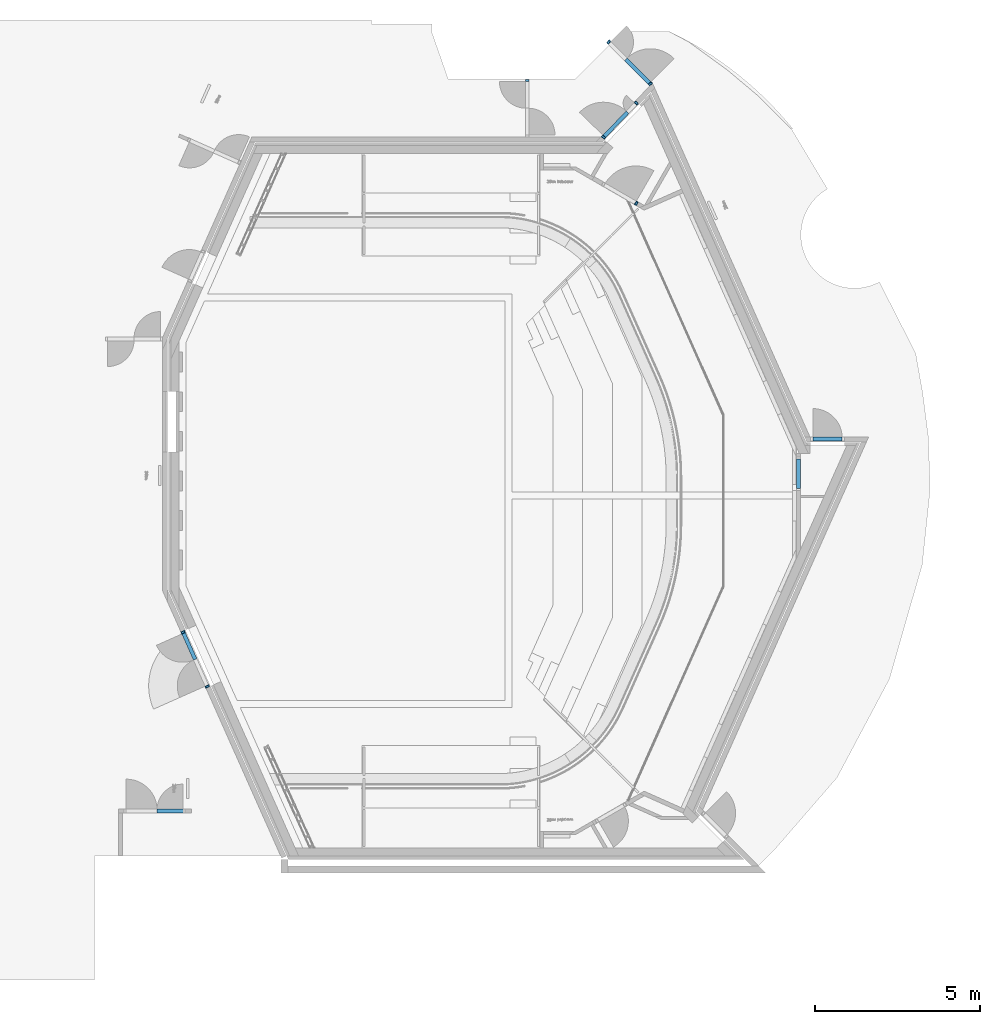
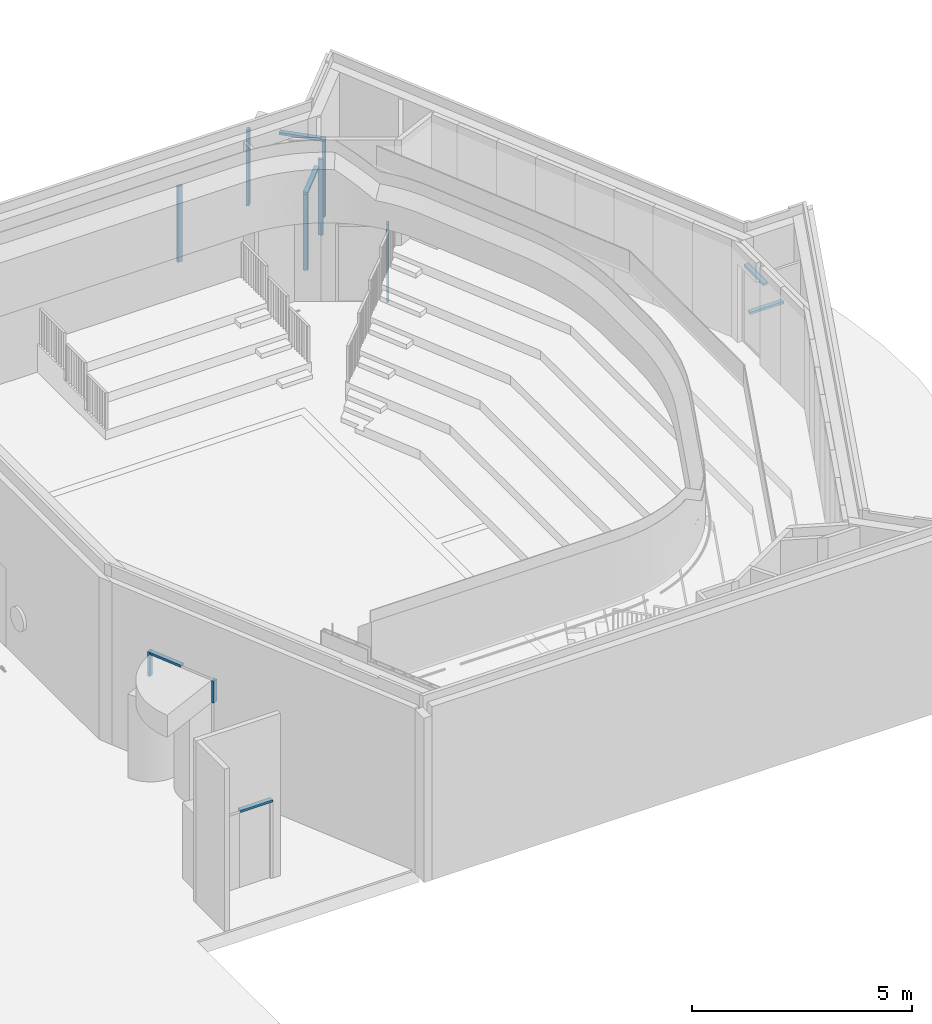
# One storey, part 4 of 19: 14 members, 8 elements without a shape of their own.
"""IFC2X3 building model written with IfcOpenShell, lengths in millimetres."""

import ifcopenshell
import ifcopenshell.guid

model = None  # the IFC model being written
_history = None  # IfcOwnerHistory: only IFC2X3 demands one
_inside = {}  # id of a spatial element -> (the spatial element, [elements in it])
_under = {}  # id of a project, library or spatial element -> (it, [spatial elements below it])
_declared = {}  # id of a project -> (the project, [libraries it declares])
_typed = {}  # id of a type object -> (the type object, [elements of that type])
_made_of = {}  # id of a material, layer set ... -> (it, [elements and type objects made of it])


def new_model(schema):
    """Start an empty IFC model of exactly this schema.

    Asked for "IFC4X3", IfcOpenShell would pick the latest addendum, in which some entities
    have other attributes; the version numbers below select the first issue.
    IFC2X3 requires an IfcOwnerHistory on every rooted entity: one is made here for all.
    """
    global model, _history
    if schema == "IFC4X3":
        model = ifcopenshell.file(schema_version=(4, 3, 0, 0))
    else:
        model = ifcopenshell.file(schema=schema)
    _inside.clear()
    _under.clear()
    _declared.clear()
    _typed.clear()
    _made_of.clear()
    _history = None
    if model.schema == "IFC2X3":
        org = make("IfcOrganization", Name="unknown")
        user = make(
            "IfcPersonAndOrganization",
            ThePerson=make("IfcPerson", FamilyName="unknown"),
            TheOrganization=org,
        )
        app = make(
            "IfcApplication",
            ApplicationDeveloper=org,
            Version="unknown",
            ApplicationFullName="unknown",
            ApplicationIdentifier="unknown",
        )
        _history = make(
            "IfcOwnerHistory",
            OwningUser=user,
            OwningApplication=app,
            ChangeAction="ADDED",
            CreationDate=0,
        )
    return model


def make(cls, **values):
    """One entity of the class cls with the attributes given. An attribute that is None is left unset."""
    return model.create_entity(
        cls, **{name: value for name, value in values.items() if value is not None}
    )


def entity(cls, *values):
    """Any entity or typed value of the class cls, its attributes in the order of the schema. None: left unset."""
    e = model.create_entity(cls)
    for i, value in enumerate(values):
        if value is not None:
            e[i] = value
    return e


def rooted(cls, **values):
    """An entity with a GlobalId (a new one), such as an element, a storey or a relation."""
    return make(cls, GlobalId=ifcopenshell.guid.new(), OwnerHistory=_history, **values)


def si_unit(unit_type, name, prefix=None):
    """IfcSIUnit, for example si_unit("LENGTHUNIT", "METRE", prefix="MILLI")."""
    return make("IfcSIUnit", UnitType=unit_type, Prefix=prefix, Name=name)


def converted_unit(unit_type, name, factor, base, dimensions=None, offset=None):
    """IfcConversionBasedUnit, such as the inch: factor (a typed value) times the base unit."""
    return make(
        "IfcConversionBasedUnit"
        if offset is None
        else "IfcConversionBasedUnitWithOffset",
        ConversionOffset=offset,
        Dimensions=None
        if dimensions is None
        else entity("IfcDimensionalExponents", *dimensions),
        UnitType=unit_type,
        Name=name,
        ConversionFactor=make(
            "IfcMeasureWithUnit", ValueComponent=factor, UnitComponent=base
        ),
    )


def derived_unit(unit_type, elements):
    """IfcDerivedUnit: a product of units, each with its exponent."""
    return make(
        "IfcDerivedUnit",
        Elements=[
            make("IfcDerivedUnitElement", Unit=unit, Exponent=power)
            for unit, power in elements
        ],
        UnitType=unit_type,
    )


def assignment(units):
    """IfcUnitAssignment: the units of a project."""
    return None if units is None else make("IfcUnitAssignment", Units=units)


def point(xyz):
    """IfcCartesianPoint."""
    return None if xyz is None else make("IfcCartesianPoint", Coordinates=xyz)


def direction(xyz):
    """IfcDirection."""
    return None if xyz is None else make("IfcDirection", DirectionRatios=xyz)


def frame(location, z_axis=None, x_axis=None):
    """IfcAxis2Placement3D, a coordinate frame: its origin and axes. An axis left out is left unset."""
    return make(
        "IfcAxis2Placement3D",
        Location=point(location),
        Axis=direction(z_axis),
        RefDirection=direction(x_axis),
    )


def frame_2d(location, x_axis=None):
    """IfcAxis2Placement2D, a coordinate frame in the plane: its origin and x axis."""
    return make(
        "IfcAxis2Placement2D", Location=point(location), RefDirection=direction(x_axis)
    )


def origin():
    """The frame at (0, 0, 0) with its axes left unset."""
    return frame((0.0, 0.0, 0.0))


def origin_2d_with_axis():
    """The frame at (0, 0) in the plane with the x axis (1, 0) written out."""
    return frame_2d((0.0, 0.0), x_axis=(1.0, 0.0))


def place(relative_to, where):
    """IfcLocalPlacement: puts the frame where relative to a parent placement (None: the world)."""
    return make(
        "IfcLocalPlacement", PlacementRelTo=relative_to, RelativePlacement=where
    )


def context(
    kind, dimensions, precision=None, world=None, true_north=None, identifier=None
):
    """IfcGeometricRepresentationContext, for example the 3D "Model" context."""
    return make(
        "IfcGeometricRepresentationContext",
        ContextIdentifier=identifier,
        ContextType=kind,
        CoordinateSpaceDimension=dimensions,
        Precision=precision,
        WorldCoordinateSystem=world,
        TrueNorth=true_north,
    )


def subcontext(parent, identifier, kind, view, scale=None):
    """IfcGeometricRepresentationSubContext, for example "Body" below "Model"."""
    return make(
        "IfcGeometricRepresentationSubContext",
        ContextIdentifier=identifier,
        ContextType=kind,
        ParentContext=parent,
        TargetScale=scale,
        TargetView=view,
    )


def project(units=None, contexts=None):
    """IfcProject with its units and contexts."""
    return rooted(
        "IfcProject",
        Name="project",
        RepresentationContexts=contexts,
        UnitsInContext=assignment(units),
    )


def spatial(cls, under=None, at=None, **own):
    """A site, building, storey or space (cls), placed at a placement, below another one or the project."""
    s = rooted(cls, ObjectPlacement=at, **own)
    if under is not None:
        _under.setdefault(under.id(), (under, []))[1].append(s)
    return s


def profile(cls, at=None, kind="AREA", **sizes):
    """A parametric profile (cls). Its sizes go by their IFC names, for example OverallWidth=200.0."""
    return make(cls, ProfileType=kind, Position=at, **sizes)


def rectangle(**sizes):
    """IfcRectangleProfileDef."""
    return profile("IfcRectangleProfileDef", **sizes)


def extrude(swept, where, along, depth):
    """IfcExtrudedAreaSolid: the profile swept, set in the frame where, extruded along a direction by depth."""
    return make(
        "IfcExtrudedAreaSolid",
        SweptArea=swept,
        Position=where,
        ExtrudedDirection=direction(along),
        Depth=depth,
    )


def shape(context_of_items, identifier, shape_type, items):
    """IfcShapeRepresentation: the items that make up one representation, for example the "Body"."""
    return make(
        "IfcShapeRepresentation",
        ContextOfItems=context_of_items,
        RepresentationIdentifier=identifier,
        RepresentationType=shape_type,
        Items=items,
    )


def source(mapping_origin, context_of_items, identifier, shape_type, items):
    """IfcRepresentationMap: a shape defined once, which mapped items show again and again."""
    return make(
        "IfcRepresentationMap",
        MappingOrigin=mapping_origin,
        MappedRepresentation=shape(context_of_items, identifier, shape_type, items),
    )


def transform(
    local_origin,
    x_axis=None,
    y_axis=None,
    z_axis=None,
    scale=None,
    scale2=None,
    scale3=None,
    uniform=True,
):
    """IfcCartesianTransformationOperator3D, or its non-uniform kind. x_axis, y_axis, z_axis: its Axis1, 2, 3."""
    if uniform:
        return make(
            "IfcCartesianTransformationOperator3D",
            Axis1=direction(x_axis),
            Axis2=direction(y_axis),
            LocalOrigin=point(local_origin),
            Scale=scale,
            Axis3=direction(z_axis),
        )
    return make(
        "IfcCartesianTransformationOperator3DnonUniform",
        Axis1=direction(x_axis),
        Axis2=direction(y_axis),
        LocalOrigin=point(local_origin),
        Scale=scale,
        Axis3=direction(z_axis),
        Scale2=scale2,
        Scale3=scale3,
    )


def mapped(mapping_source, mapping_target):
    """IfcMappedItem: shows the shape of a source again, moved by a transform."""
    return make(
        "IfcMappedItem", MappingSource=mapping_source, MappingTarget=mapping_target
    )


def material(Name=None, Category=None):
    """IfcMaterial."""
    return make("IfcMaterial", Name=Name, Category=Category)


def made_of(thing, what):
    """Note that an element or type object is made of a material, layer set ...; save() writes the relation."""
    if what is not None:
        _made_of.setdefault(what.id(), (what, []))[1].append(thing)
    return thing


def type_object(cls, material=None, **own):
    """A type object (cls), such as IfcWallType, which elements share."""
    return made_of(rooted(cls, **own), material)


def type_shapes(of_type, sources):
    """Give a type object the sources (RepresentationMaps) that its elements show as mapped items."""
    of_type.RepresentationMaps = sources


def element(
    cls,
    number,
    at=None,
    inside=None,
    cuts=None,
    type_object=None,
    material=None,
    context=None,
    identifier="Body",
    shape_type=None,
    held_by="IfcProductDefinitionShape",
    body=None,
    shapes=None,
    **own,
):
    """One element of the class cls, such as IfcWall. Its Tag is "e" and its number.

    at: its placement. inside: the storey or other place that contains it. cuts: it is an
    opening in that element (IfcRelVoidsElement). A single representation is given by context,
    identifier, shape_type and body (its items); several are given by shapes. held_by: the class
    of the entity that holds the representations. save() writes the other relations.
    """
    e = rooted(cls, Tag="e%d" % number, ObjectPlacement=at, **own)
    if body is not None:
        shapes = [shape(context, identifier, shape_type, body)]
    if shapes is not None:
        e.Representation = make(held_by, Representations=shapes)
    if inside is not None:
        _inside.setdefault(inside.id(), (inside, []))[1].append(e)
    if cuts is not None:
        rooted(
            "IfcRelVoidsElement", RelatingBuildingElement=cuts, RelatedOpeningElement=e
        )
    if type_object is not None:
        _typed.setdefault(type_object.id(), (type_object, []))[1].append(e)
    return made_of(e, material)


def aggregate(whole, parts):
    """IfcRelAggregates: a whole, such as a stair, and the parts it consists of."""
    return rooted("IfcRelAggregates", RelatingObject=whole, RelatedObjects=parts)


def save(model, path):
    """Write the relations noted so far, then the file.

    IfcRelAggregates (storeys below a building ...), IfcRelContainedInSpatialStructure (elements
    in a storey), IfcRelDefinesByType, IfcRelAssociatesMaterial and IfcRelDeclares: one each for
    every whole, place, type object, material and project.
    """
    for whole, parts in _under.values():
        aggregate(whole, parts)
    for where, things in _inside.values():
        rooted(
            "IfcRelContainedInSpatialStructure",
            RelatedElements=things,
            RelatingStructure=where,
        )
    for kind, things in _typed.values():
        rooted("IfcRelDefinesByType", RelatedObjects=things, RelatingType=kind)
    for what, things in _made_of.values():
        rooted("IfcRelAssociatesMaterial", RelatedObjects=things, RelatingMaterial=what)
    for by, libraries in _declared.values():
        rooted("IfcRelDeclares", RelatingContext=by, RelatedDefinitions=libraries)
    model.write(path)


model = new_model("IFC2X3")

# Units and contexts
model_context = context("Model", 3, precision=0.01, world=origin(), true_north=direction((6.123031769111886e-17, 1.0)))
body_context = subcontext(model_context, "Body", "Model", "MODEL_VIEW")
ifc_project = project(units=[si_unit("LENGTHUNIT", "METRE", prefix="MILLI"), si_unit("AREAUNIT", "SQUARE_METRE"), si_unit("VOLUMEUNIT", "CUBIC_METRE"), converted_unit("PLANEANGLEUNIT", "DEGREE", entity("IfcRatioMeasure", 0.017453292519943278), si_unit("PLANEANGLEUNIT", "RADIAN"), dimensions=[0, 0, 0, 0, 0, 0, 0]), si_unit("MASSUNIT", "GRAM", prefix="KILO"), derived_unit("MASSDENSITYUNIT", [(si_unit("MASSUNIT", "GRAM", prefix="KILO"), 1), (si_unit("LENGTHUNIT", "METRE"), -3)]), derived_unit("MOMENTOFINERTIAUNIT", [(si_unit("LENGTHUNIT", "METRE"), 4)]), si_unit("TIMEUNIT", "SECOND"), si_unit("FREQUENCYUNIT", "HERTZ"), si_unit("THERMODYNAMICTEMPERATUREUNIT", "DEGREE_CELSIUS"), derived_unit("THERMALTRANSMITTANCEUNIT", [(si_unit("MASSUNIT", "GRAM", prefix="KILO"), 1), (si_unit("THERMODYNAMICTEMPERATUREUNIT", "KELVIN"), -1), (si_unit("TIMEUNIT", "SECOND"), -3)]), derived_unit("VOLUMETRICFLOWRATEUNIT", [(si_unit("LENGTHUNIT", "METRE"), 3), (si_unit("TIMEUNIT", "SECOND"), -1)]), derived_unit("MASSFLOWRATEUNIT", [(si_unit("MASSUNIT", "GRAM", prefix="KILO"), 1), (si_unit("TIMEUNIT", "SECOND"), -1)]), derived_unit("ROTATIONALFREQUENCYUNIT", [(si_unit("TIMEUNIT", "SECOND"), -1)]), si_unit("ELECTRICCURRENTUNIT", "AMPERE"), si_unit("ELECTRICVOLTAGEUNIT", "VOLT"), si_unit("POWERUNIT", "WATT"), si_unit("FORCEUNIT", "NEWTON", prefix="KILO"), si_unit("ILLUMINANCEUNIT", "LUX"), si_unit("LUMINOUSFLUXUNIT", "LUMEN"), si_unit("LUMINOUSINTENSITYUNIT", "CANDELA"), derived_unit("USERDEFINED", [(si_unit("MASSUNIT", "GRAM", prefix="KILO"), -1), (si_unit("LENGTHUNIT", "METRE"), -2), (si_unit("TIMEUNIT", "SECOND"), 3), (si_unit("LUMINOUSFLUXUNIT", "LUMEN"), 1)]), derived_unit("SOUNDPOWERUNIT", [(si_unit("MASSUNIT", "GRAM", prefix="KILO"), 1), (si_unit("LENGTHUNIT", "METRE"), 2), (si_unit("TIMEUNIT", "SECOND"), -3)]), derived_unit("SOUNDPRESSUREUNIT", [(si_unit("MASSUNIT", "GRAM", prefix="KILO"), 1), (si_unit("LENGTHUNIT", "METRE"), -1), (si_unit("TIMEUNIT", "SECOND"), -2)]), derived_unit("LINEARVELOCITYUNIT", [(si_unit("LENGTHUNIT", "METRE"), 1), (si_unit("TIMEUNIT", "SECOND"), -1)]), si_unit("PRESSUREUNIT", "PASCAL"), derived_unit("USERDEFINED", [(si_unit("LENGTHUNIT", "METRE"), -2), (si_unit("MASSUNIT", "GRAM", prefix="KILO"), 1), (si_unit("TIMEUNIT", "SECOND"), -2)]), derived_unit("LINEARFORCEUNIT", [(si_unit("MASSUNIT", "GRAM", prefix="KILO"), 1), (si_unit("LENGTHUNIT", "METRE"), 1), (si_unit("TIMEUNIT", "SECOND"), -2), (si_unit("LENGTHUNIT", "METRE"), -1)]), derived_unit("PLANARFORCEUNIT", [(si_unit("MASSUNIT", "GRAM", prefix="KILO"), 1), (si_unit("LENGTHUNIT", "METRE"), 1), (si_unit("TIMEUNIT", "SECOND"), -2), (si_unit("LENGTHUNIT", "METRE"), -2)])], contexts=[model_context])

# Site, building, storey
site_placement = place(None, frame((-10000.0, -10000.0, 0.0)))
site = spatial("IfcSite", under=ifc_project, at=site_placement, Name="Default", CompositionType="ELEMENT")
building_placement = place(site_placement, origin())
building = spatial("IfcBuilding", under=site, at=building_placement, CompositionType="ELEMENT")
storey_placement = place(building_placement, frame((0.0, 0.0, 4200.0)))
storey = spatial("IfcBuildingStorey", under=building, at=storey_placement, Name="01 1e verdieping", CompositionType="ELEMENT", Elevation=4200.000000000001)

# Curtain wall, member
curtain_wall_type = type_object("IfcCurtainWallType", Name="Curtain Wall:NLRS_32_CWA_houten binnenkozijnen ts90_ags", PredefinedType="NOTDEFINED")
curtain_wall_1_placement = place(storey_placement, frame((0.0, 0.0, -4200.0)))
curtain_wall_1 = element("IfcCurtainWall", 1, at=curtain_wall_1_placement, inside=storey, type_object=curtain_wall_type, Name="Curtain Wall:NLRS_32_CWA_houten binnenkozijnen ts90_ags", ObjectType="Curtain Wall:NLRS_32_CWA_houten binnenkozijnen ts90_ags")
ifc_material = material(Name="<Unnamed>")
member_type_1 = type_object("IfcMemberType", Name="Rectangular Mullion:NLRS_32_CWM_hout 114x67_ags", PredefinedType="MULLION", material=ifc_material)
shared_shape_1 = source(origin(), body_context, "Body", "SweptSolid", [
    extrude(rectangle(XDim=114.0, YDim=67.0, at=origin_2d_with_axis()), frame((-33.5, 0.0, -2103.0), z_axis=(0.0, 0.0, 1.0), x_axis=(0.0, -1.0, 0.0)), (0.0, 0.0, 1.0), 2103.0),
])
type_shapes(member_type_1, [shared_shape_1])
member_1_placement = place(curtain_wall_1_placement, frame((39644.82794933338, 50705.0551990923, 4200.0), z_axis=(0.0, 0.0, -1.0), x_axis=(0.6943722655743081, 0.7196159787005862, 0.0)))
member_1 = element("IfcMember", 2, at=member_1_placement, type_object=member_type_1, material=ifc_material, Name="Rectangular Mullion:NLRS_32_CWM_hout 114x67_ags", ObjectType="Rectangular Mullion:NLRS_32_CWM_hout 114x67_ags", context=body_context, shape_type="MappedRepresentation", body=[
    mapped(shared_shape_1, transform((0.0, 0.0, 0.0), scale=1.0)),
])

curtain_wall_2_placement = place(storey_placement, frame((0.0, 0.0, -4200.0)))
curtain_wall_2 = element("IfcCurtainWall", 3, at=curtain_wall_2_placement, inside=storey, type_object=curtain_wall_type, Name="Curtain Wall:NLRS_32_CWA_houten binnenkozijnen ts90_ags", ObjectType="Curtain Wall:NLRS_32_CWA_houten binnenkozijnen ts90_ags")
member_2_placement = place(curtain_wall_2_placement, frame((40070.39875799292, 51245.732878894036, 4200.0), z_axis=(0.0, 0.0, -1.0), x_axis=(0.7071067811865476, -0.7071067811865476, 0.0)))
member_2 = element("IfcMember", 4, at=member_2_placement, type_object=member_type_1, material=ifc_material, Name="Rectangular Mullion:NLRS_32_CWM_hout 114x67_ags", ObjectType="Rectangular Mullion:NLRS_32_CWM_hout 114x67_ags", context=body_context, shape_type="MappedRepresentation", body=[
    mapped(shared_shape_1, transform((0.0, 0.0, 0.0), scale=1.0)),
])

# Member
member_type_2 = type_object("IfcMemberType", Name="Rectangular Mullion:NLRS_32_CWM_hout 114x67_ags", PredefinedType="MULLION", material=ifc_material)
shared_shape_2 = source(origin(), body_context, "Body", "SweptSolid", [
    extrude(rectangle(XDim=114.0, YDim=67.0, at=origin_2d_with_axis()), frame((-33.5, 0.0, -2103.0), z_axis=(0.0, 0.0, 1.0), x_axis=(0.0, -1.0, 0.0)), (0.0, 0.0, 1.0), 2103.0000000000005),
])
type_shapes(member_type_2, [shared_shape_2])
member_3_placement = place(curtain_wall_1_placement, frame((38603.43549617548, 49625.80320913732, 6303.0), z_axis=(0.0, 0.0, 1.0), x_axis=(-0.6943722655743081, -0.7196159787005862, 0.0)))
member_3 = element("IfcMember", 5, at=member_3_placement, type_object=member_type_2, material=ifc_material, Name="Rectangular Mullion:NLRS_32_CWM_hout 114x67_ags", ObjectType="Rectangular Mullion:NLRS_32_CWM_hout 114x67_ags", context=body_context, shape_type="MappedRepresentation", body=[
    mapped(shared_shape_2, transform((0.0, 0.0, 0.0), scale=1.0)),
])

# Curtain wall, member
curtain_wall_3_placement = place(storey_placement, frame((0.0, 0.0, -4200.0)))
curtain_wall_3 = element("IfcCurtainWall", 6, at=curtain_wall_3_placement, inside=storey, type_object=curtain_wall_type, Name="Curtain Wall:NLRS_32_CWA_houten binnenkozijnen ts90_ags", ObjectType="Curtain Wall:NLRS_32_CWA_houten binnenkozijnen ts90_ags")
member_4_placement = place(curtain_wall_3_placement, frame((36317.06459566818, 51401.995249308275, 6303.0), z_axis=(0.0, 0.0, 1.0), x_axis=(0.0, 1.0, 0.0)))
member_4 = element("IfcMember", 7, at=member_4_placement, type_object=member_type_2, material=ifc_material, Name="Rectangular Mullion:NLRS_32_CWM_hout 114x67_ags", ObjectType="Rectangular Mullion:NLRS_32_CWM_hout 114x67_ags", context=body_context, shape_type="MappedRepresentation", body=[
    mapped(shared_shape_2, transform((0.0, 0.0, 0.0), scale=1.0)),
])
aggregate(curtain_wall_3, [member_4])

# Member
member_5_placement = place(curtain_wall_2_placement, frame((38762.251212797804, 52553.880424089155, 6303.0), z_axis=(0.0, 0.0, 1.0), x_axis=(-0.7071067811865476, 0.7071067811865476, 0.0)))
member_5 = element("IfcMember", 8, at=member_5_placement, type_object=member_type_2, material=ifc_material, Name="Rectangular Mullion:NLRS_32_CWM_hout 114x67_ags", ObjectType="Rectangular Mullion:NLRS_32_CWM_hout 114x67_ags", context=body_context, shape_type="MappedRepresentation", body=[
    mapped(shared_shape_2, transform((0.0, 0.0, 0.0), scale=1.0)),
])

member_type_3 = type_object("IfcMemberType", Name="Rectangular Mullion:NLRS_32_CWM_hout 114x67_ags", PredefinedType="MULLION", material=ifc_material)
shared_shape_3 = source(origin(), body_context, "Body", "SweptSolid", [
    extrude(rectangle(XDim=114.0, YDim=67.0, at=origin_2d_with_axis()), frame((-33.5, 0.0, -1080.0), z_axis=(0.0, 0.0, 1.0), x_axis=(0.0, -1.0, 0.0)), (0.0, 0.0, 1.0), 1080.0000000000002),
])
type_shapes(member_type_3, [shared_shape_3])
member_6_placement = place(curtain_wall_1_placement, frame((39353.35754299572, 50402.98846613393, 6370.0), z_axis=(0.6943722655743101, 0.7196159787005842, 0.0), x_axis=(0.0, 0.0, 1.0)))
member_6 = element("IfcMember", 9, at=member_6_placement, type_object=member_type_3, material=ifc_material, Name="Rectangular Mullion:NLRS_32_CWM_hout 114x67_ags", ObjectType="Rectangular Mullion:NLRS_32_CWM_hout 114x67_ags", context=body_context, shape_type="MappedRepresentation", body=[
    mapped(shared_shape_3, transform((0.0, 0.0, 0.0), scale=1.0)),
])

aggregate(curtain_wall_1, [member_1, member_3, member_6])

# Curtain wall, member
curtain_wall_4_placement = place(storey_placement, frame((0.0, 0.0, -4200.0)))
curtain_wall_4 = element("IfcCurtainWall", 10, at=curtain_wall_4_placement, inside=storey, type_object=curtain_wall_type, Name="Curtain Wall:NLRS_32_CWA_houten binnenkozijnen ts90_ags", ObjectType="Curtain Wall:NLRS_32_CWA_houten binnenkozijnen ts90_ags")
member_type_4 = type_object("IfcMemberType", Name="Rectangular Mullion:NLRS_32_CWM_hout 114x67_ags", PredefinedType="MULLION", material=ifc_material)
shared_shape_4 = source(origin(), body_context, "Body", "SweptSolid", [
    extrude(rectangle(XDim=114.0, YDim=67.0, at=origin_2d_with_axis()), frame((-33.5, 0.0, -2170.0), z_axis=(0.0, 0.0, 1.0), x_axis=(0.0, -1.0, 0.0)), (0.0, 0.0, 1.0), 2170.0),
])
type_shapes(member_type_4, [shared_shape_4])
member_7_placement = place(curtain_wall_4_placement, frame((39651.75566600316, 47630.358131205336, 4200.0), z_axis=(0.0, 0.0, -1.0), x_axis=(0.8660254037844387, -0.5000000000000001, 0.0)))
member_7 = element("IfcMember", 11, at=member_7_placement, type_object=member_type_4, material=ifc_material, Name="Rectangular Mullion:NLRS_32_CWM_hout 114x67_ags", ObjectType="Rectangular Mullion:NLRS_32_CWM_hout 114x67_ags", context=body_context, shape_type="MappedRepresentation", body=[
    mapped(shared_shape_4, transform((0.0, 0.0, 0.0), scale=1.0)),
])
aggregate(curtain_wall_4, [member_7])

curtain_wall_5_placement = place(storey_placement, frame((0.0, 0.0, -4200.0)))
curtain_wall_5 = element("IfcCurtainWall", 12, at=curtain_wall_5_placement, inside=storey, type_object=curtain_wall_type, Name="Curtain Wall:NLRS_32_CWA_houten binnenkozijnen ts90_ags", ObjectType="Curtain Wall:NLRS_32_CWA_houten binnenkozijnen ts90_ags")
member_type_5 = type_object("IfcMemberType", Name="Rectangular Mullion:NLRS_32_CWM_hout 114x67_ags", PredefinedType="MULLION", material=ifc_material)
shared_shape_5 = source(origin(), body_context, "Body", "SweptSolid", [
    extrude(rectangle(XDim=114.0, YDim=67.0, at=origin_2d_with_axis()), frame((-33.5, 0.0, -886.0), z_axis=(0.0, 0.0, 1.0), x_axis=(0.0, -1.0, 0.0)), (0.0, 0.0, 1.0), 885.9999999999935),
])
type_shapes(member_type_5, [shared_shape_5])
member_8_placement = place(curtain_wall_5_placement, frame((45856.5736146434, 40510.97902798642, 6370.0), z_axis=(1.0, 0.0, 0.0), x_axis=(0.0, 0.0, 1.0)))
member_8 = element("IfcMember", 13, at=member_8_placement, type_object=member_type_5, material=ifc_material, Name="Rectangular Mullion:NLRS_32_CWM_hout 114x67_ags", ObjectType="Rectangular Mullion:NLRS_32_CWM_hout 114x67_ags", context=body_context, shape_type="MappedRepresentation", body=[
    mapped(shared_shape_5, transform((0.0, 0.0, 0.0), scale=1.0)),
])
aggregate(curtain_wall_5, [member_8])

curtain_wall_6_placement = place(storey_placement, frame((0.0, 0.0, -4200.0)))
curtain_wall_6 = element("IfcCurtainWall", 14, at=curtain_wall_6_placement, inside=storey, type_object=curtain_wall_type, Name="Curtain Wall:NLRS_32_CWA_houten binnenkozijnen ts90_ags", ObjectType="Curtain Wall:NLRS_32_CWA_houten binnenkozijnen ts90_ags")
member_9_placement = place(curtain_wall_6_placement, frame((44537.49999999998, 39900.97902798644, 8215.0), z_axis=(0.0, 1.0, 0.0), x_axis=(0.0, 0.0, 1.0)))
member_9 = element("IfcMember", 15, at=member_9_placement, type_object=member_type_5, material=ifc_material, Name="Rectangular Mullion:NLRS_32_CWM_hout 114x67_ags", ObjectType="Rectangular Mullion:NLRS_32_CWM_hout 114x67_ags", context=body_context, shape_type="MappedRepresentation", body=[
    mapped(shared_shape_5, transform((0.0, 0.0, 0.0), scale=1.0)),
])
aggregate(curtain_wall_6, [member_9])

# Curtain wall, members
curtain_wall_7_placement = place(storey_placement, frame((0.0, 0.0, -4200.0)))
curtain_wall_7 = element("IfcCurtainWall", 16, at=curtain_wall_7_placement, inside=storey, type_object=curtain_wall_type, Name="Curtain Wall:NLRS_32_CWA_houten binnenkozijnen ts90_ags", ObjectType="Curtain Wall:NLRS_32_CWA_houten binnenkozijnen ts90_ags")
member_type_6 = type_object("IfcMemberType", Name="Rectangular Mullion:NLRS_32_CWM_hout 114x67_ags", PredefinedType="MULLION", material=ifc_material)
shared_shape_6 = source(origin(), body_context, "Body", "SweptSolid", [
    extrude(rectangle(XDim=114.0, YDim=67.0, at=frame_2d((4.973799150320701e-14, 0.0), x_axis=(1.0, 0.0))), frame((-33.5, 0.0, -865.5000000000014), z_axis=(0.0, 0.0, 1.0), x_axis=(0.0, -1.0, 0.0)), (0.0, 0.0, 1.0), 865.500000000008),
])
type_shapes(member_type_6, [shared_shape_6])
member_10_placement = place(curtain_wall_7_placement, frame((25905.971520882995, 34623.057792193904, 7200.0), z_axis=(-0.4067366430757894, 0.9135454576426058, 0.0), x_axis=(0.0, 0.0, 1.0)))
member_10 = element("IfcMember", 17, at=member_10_placement, type_object=member_type_6, material=ifc_material, Name="Rectangular Mullion:NLRS_32_CWM_hout 114x67_ags", ObjectType="Rectangular Mullion:NLRS_32_CWM_hout 114x67_ags", context=body_context, shape_type="MappedRepresentation", body=[
    mapped(shared_shape_6, transform((0.0, 0.0, 0.0), scale=1.0)),
])
member_type_7 = type_object("IfcMemberType", Name="Rectangular Mullion:NLRS_32_CWM_hout 114x67_ags", PredefinedType="MULLION", material=ifc_material)
shared_shape_7 = source(origin(), body_context, "Body", "SweptSolid", [
    extrude(rectangle(XDim=114.0, YDim=67.0, at=origin_2d_with_axis()), frame((-33.5, 0.0, -613.0), z_axis=(0.0, 0.0, 1.0), x_axis=(0.0, -1.0, 0.0)), (0.0, 0.0, 1.0), 613.0000000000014),
])
type_shapes(member_type_7, [shared_shape_7])
member_11_placement = place(curtain_wall_7_placement, frame((26637.284005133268, 32980.50305935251, 7133.0), z_axis=(0.0, 0.0, 1.0), x_axis=(0.40673664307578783, -0.9135454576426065, 0.0)))
member_11 = element("IfcMember", 18, at=member_11_placement, type_object=member_type_7, material=ifc_material, Name="Rectangular Mullion:NLRS_32_CWM_hout 114x67_ags", ObjectType="Rectangular Mullion:NLRS_32_CWM_hout 114x67_ags", context=body_context, shape_type="MappedRepresentation", body=[
    mapped(shared_shape_7, transform((0.0, 0.0, 0.0), scale=1.0)),
])
member_type_8 = type_object("IfcMemberType", Name="Rectangular Mullion:NLRS_32_CWM_hout 114x67_ags", PredefinedType="MULLION", material=ifc_material)
shared_shape_8 = source(origin(), body_context, "Body", "SweptSolid", [
    extrude(rectangle(XDim=114.0, YDim=67.0, at=origin_2d_with_axis()), frame((-33.5, 0.0, -680.0), z_axis=(0.0, 0.0, 1.0), x_axis=(0.0, -1.0, 0.0)), (0.0, 0.0, 1.0), 680.0000000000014),
])
type_shapes(member_type_8, [shared_shape_8])
member_12_placement = place(curtain_wall_7_placement, frame((25878.720165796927, 34684.26533785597, 6520.0), z_axis=(0.0, 0.0, -1.0), x_axis=(-0.40673664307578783, 0.9135454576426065, 0.0)))
member_12 = element("IfcMember", 19, at=member_12_placement, type_object=member_type_8, material=ifc_material, Name="Rectangular Mullion:NLRS_32_CWM_hout 114x67_ags", ObjectType="Rectangular Mullion:NLRS_32_CWM_hout 114x67_ags", context=body_context, shape_type="MappedRepresentation", body=[
    mapped(shared_shape_8, transform((0.0, 0.0, 0.0), scale=1.0)),
])
aggregate(curtain_wall_7, [member_10, member_11, member_12])

# Member
member_type_9 = type_object("IfcMemberType", Name="Rectangular Mullion:NLRS_32_CWM_hout 114x67_ags", PredefinedType="MULLION", material=ifc_material)
shared_shape_9 = source(origin(), body_context, "Body", "SweptSolid", [
    extrude(rectangle(XDim=114.0, YDim=67.0, at=origin_2d_with_axis()), frame((-33.5, 0.0, -1080.0), z_axis=(0.0, 0.0, 1.0), x_axis=(0.0, -1.0, 0.0)), (0.0, 0.0, 1.0), 1080.0000000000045),
])
type_shapes(member_type_9, [shared_shape_9])
member_13_placement = place(curtain_wall_2_placement, frame((40070.39875799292, 51245.732878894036, 6370.0), z_axis=(0.7071067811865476, -0.7071067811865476, 0.0), x_axis=(0.0, 0.0, 1.0)))
member_13 = element("IfcMember", 20, at=member_13_placement, type_object=member_type_9, material=ifc_material, Name="Rectangular Mullion:NLRS_32_CWM_hout 114x67_ags", ObjectType="Rectangular Mullion:NLRS_32_CWM_hout 114x67_ags", context=body_context, shape_type="MappedRepresentation", body=[
    mapped(shared_shape_9, transform((0.0, 0.0, 0.0), scale=1.0)),
])

aggregate(curtain_wall_2, [member_13, member_2, member_5])

# Curtain wall, member
curtain_wall_8_placement = place(storey_placement, frame((0.0, 0.0, -4200.0)))
curtain_wall_8 = element("IfcCurtainWall", 21, at=curtain_wall_8_placement, inside=storey, type_object=curtain_wall_type, Name="Curtain Wall:NLRS_32_CWA_houten binnenkozijnen ts90_ags", ObjectType="Curtain Wall:NLRS_32_CWA_houten binnenkozijnen ts90_ags")
member_type_10 = type_object("IfcMemberType", Name="Rectangular Mullion:NLRS_32_CWM_hout 114x67_ags", PredefinedType="MULLION", material=ifc_material)
shared_shape_10 = source(origin(), body_context, "Body", "SweptSolid", [
    extrude(rectangle(XDim=114.0, YDim=67.0, at=origin_2d_with_axis()), frame((-33.5, 0.0, -850.0), z_axis=(0.0, 0.0, 1.0), x_axis=(0.0, -1.0, 0.0)), (0.0, 0.0, 1.0), 850.000000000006),
])
type_shapes(member_type_10, [shared_shape_10])
member_14_placement = place(curtain_wall_8_placement, frame((25952.444399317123, 29237.4999996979, 6370.0), z_axis=(1.0, 0.0, 0.0), x_axis=(0.0, 0.0, 1.0)))
member_14 = element("IfcMember", 22, at=member_14_placement, type_object=member_type_10, material=ifc_material, Name="Rectangular Mullion:NLRS_32_CWM_hout 114x67_ags", ObjectType="Rectangular Mullion:NLRS_32_CWM_hout 114x67_ags", context=body_context, shape_type="MappedRepresentation", body=[
    mapped(shared_shape_10, transform((0.0, 0.0, 0.0), scale=1.0)),
])
aggregate(curtain_wall_8, [member_14])

save(model, "model.ifc")
